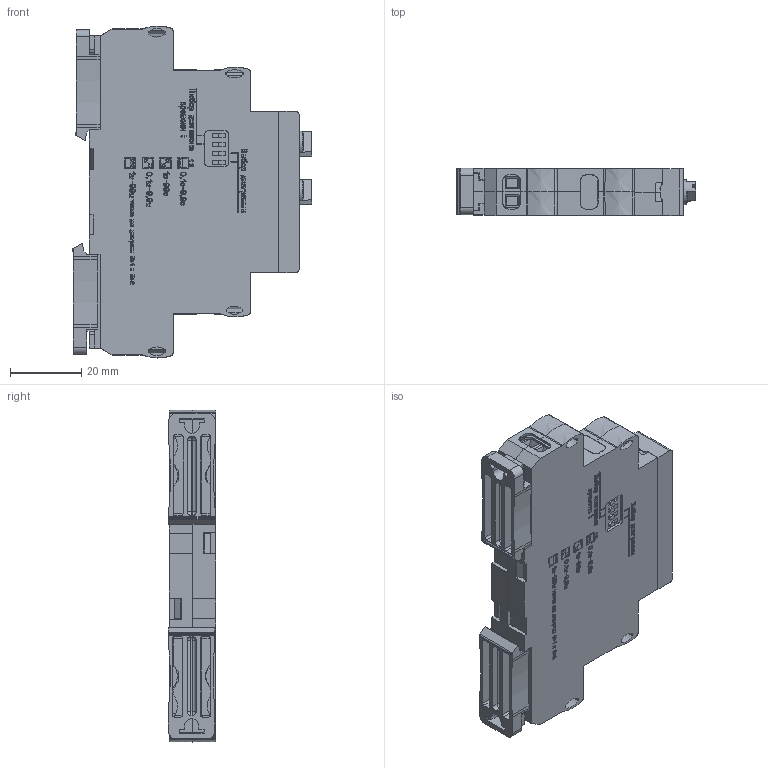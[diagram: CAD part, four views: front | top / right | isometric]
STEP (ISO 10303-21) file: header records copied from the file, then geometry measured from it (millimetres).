
FILE_DESCRIPTION(('STEP AP203'), '1');
FILE_NAME('ﾑ碚濱ﾐﾂﾎ-26ﾌ', '', ('UNSPECIFIED'), ('UNSPECIFIED'), 'ASCON STEP Converter 1.6', 'ASCON Math Kernel', '');
FILE_SCHEMA(('CONFIG_CONTROL_DESIGN'));
Length unit declared in the file: millimetre
Products named in the file (17): Case13-18-23mm_2step_Half_v01a_Build20140909_1552_6.5mm; Case13-18-23mm_2step_Lock_v01a_Build20140909_1552; Case13_Face; Клемма DG128-5.08-1_Џｮ гｬｮｫзｭЁо; Case13_plug; R-knob_2017_Hex2mm__Џｮ гｬｮｫзｭЁо
Assembly tree (23 placements, depth 3):
  (unnamed)
    Case13-18-23mm_2step_Half_v01a_Build20140909_1552_6.5mm
    Case13-18-23mm_2step_Lock_v01a_Build20140909_1552  x2
    Case13-18-23mm_2step_Half_v01a_Build20140909_1552_6.5mm
    Case13_Face
    (unnamed)  x4
      Клемма DG128-5.08-1_Џｮ гｬｮｫзｭЁо
    Case13_plug  x2
    (unnamed)
    (unnamed)
    R-knob_2017_Hex2mm__Џｮ гｬｮｫзｭЁо  x2
    (unnamed)
    (unnamed)
    (unnamed)
    (unnamed)
    (unnamed)
    (unnamed)
Bounding box: 67 x 13.21 x 92.99 mm (x, y, z)
Volume: 21397 mm3; surface area: 37511.5 mm2
Topology: 409 solids, 409 shells, 15966 faces, 45153 edges, 30025 vertices
Faces by surface type: plane 11746, extrusion 3865, cylinder 284, cone 42, torus 17, sphere 8, bspline 4
Full cylindrical faces by diameter (mm): 1.238 x8, 2.1 x2, 3.9 x8, 4.5 x2, 6.1 x2
Entity records: 639421 total; most frequent: CARTESIAN_POINT 125942, ORIENTED_EDGE 87526, DIRECTION 63457, EDGE_CURVE 43763, VECTOR 39391, LINE 35526, VERTEX_POINT 29154, EDGE_LOOP 15913
